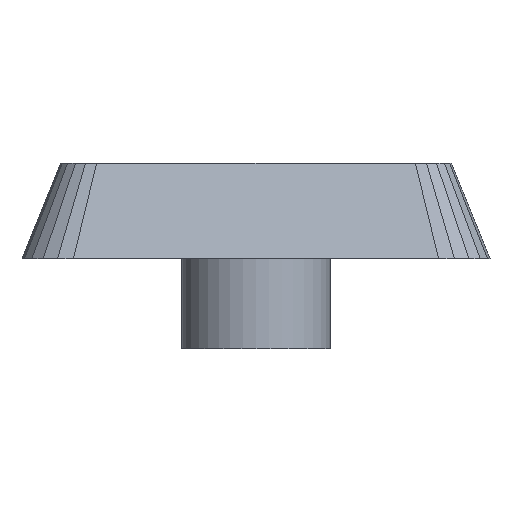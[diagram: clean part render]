
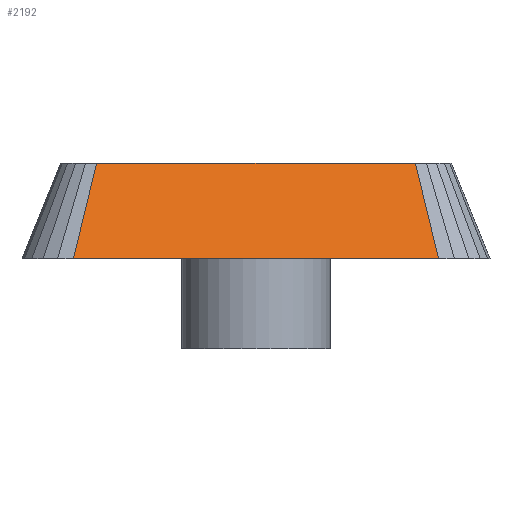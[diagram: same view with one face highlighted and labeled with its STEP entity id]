
A CAD part, front view. The second image highlights one B-rep face of the part: STEP entity #2192.
In plain terms, the highlighted free-form (B-spline) face has degree [1, 1] with [2, 2] control points.
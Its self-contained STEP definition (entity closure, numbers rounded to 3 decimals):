
#44 = PLANE('',#45);
#45 = AXIS2_PLACEMENT_3D('',#46,#47,#48);
#46 = CARTESIAN_POINT('',(9.1,11.1,19.5));
#47 = DIRECTION('',(-0.,0.,-1.));
#48 = DIRECTION('',(-0.757,-0.653,0.));
#98 = PLANE('',#99);
#99 = AXIS2_PLACEMENT_3D('',#100,#101,#102);
#100 = CARTESIAN_POINT('',(7.6,10.2,23.2));
#101 = DIRECTION('',(-0.,0.,-1.));
#102 = DIRECTION('',(-0.749,-0.663,0.));
#275 = VERTEX_POINT('',#276);
#276 = CARTESIAN_POINT('',(7.1,-5.1,19.5));
#290 = B_SPLINE_SURFACE_WITH_KNOTS('',1,1,(
    (#291,#292)
    ,(#293,#294
    )),.UNSPECIFIED.,.F.,.F.,.F.,(2,2),(2,2),(0.,0.626),(0.,1.)
  ,.PIECEWISE_BEZIER_KNOTS.);
#291 = CARTESIAN_POINT('',(7.1,-5.1,19.5));
#292 = CARTESIAN_POINT('',(6.2,-3.6,23.2));
#293 = CARTESIAN_POINT('',(7.718,-5.002,19.5));
#294 = CARTESIAN_POINT('',(6.633,-3.531,23.2));
#302 = EDGE_CURVE('',#303,#275,#305,.T.);
#303 = VERTEX_POINT('',#304);
#304 = CARTESIAN_POINT('',(-7.1,-5.1,19.5));
#305 = SURFACE_CURVE('',#306,(#310,#317),.PCURVE_S1.);
#306 = LINE('',#307,#308);
#307 = CARTESIAN_POINT('',(-7.1,-5.1,19.5));
#308 = VECTOR('',#309,1.);
#309 = DIRECTION('',(1.,0.,0.));
#310 = PCURVE('',#44,#311);
#311 = DEFINITIONAL_REPRESENTATION('',(#312),#316);
#312 = LINE('',#313,#314);
#313 = CARTESIAN_POINT('',(22.848,-1.681));
#314 = VECTOR('',#315,1.);
#315 = DIRECTION('',(-0.757,-0.653));
#316 = ( GEOMETRIC_REPRESENTATION_CONTEXT(2) 
PARAMETRIC_REPRESENTATION_CONTEXT() REPRESENTATION_CONTEXT('2D SPACE',''
  ) );
#317 = PCURVE('',#318,#323);
#318 = B_SPLINE_SURFACE_WITH_KNOTS('',1,1,(
    (#319,#320)
    ,(#321,#322
    )),.UNSPECIFIED.,.F.,.F.,.F.,(2,2),(2,2),(0.,14.2),(0.,1.),
  .PIECEWISE_BEZIER_KNOTS.);
#319 = CARTESIAN_POINT('',(-7.1,-5.1,19.5));
#320 = CARTESIAN_POINT('',(-6.2,-3.6,23.2));
#321 = CARTESIAN_POINT('',(7.1,-5.1,19.5));
#322 = CARTESIAN_POINT('',(6.2,-3.6,23.2));
#323 = DEFINITIONAL_REPRESENTATION('',(#324),#328);
#324 = LINE('',#325,#326);
#325 = CARTESIAN_POINT('',(0.,0.));
#326 = VECTOR('',#327,1.);
#327 = DIRECTION('',(1.,0.));
#328 = ( GEOMETRIC_REPRESENTATION_CONTEXT(2) 
PARAMETRIC_REPRESENTATION_CONTEXT() REPRESENTATION_CONTEXT('2D SPACE',''
  ) );
#346 = B_SPLINE_SURFACE_WITH_KNOTS('',1,1,(
    (#347,#348)
    ,(#349,#350
    )),.UNSPECIFIED.,.F.,.F.,.F.,(2,2),(2,2),(0.,0.626),(0.,1.)
  ,.PIECEWISE_BEZIER_KNOTS.);
#347 = CARTESIAN_POINT('',(-7.718,-5.002,19.5));
#348 = CARTESIAN_POINT('',(-6.633,-3.531,23.2));
#349 = CARTESIAN_POINT('',(-7.1,-5.1,19.5));
#350 = CARTESIAN_POINT('',(-6.2,-3.6,23.2));
#1734 = VERTEX_POINT('',#1735);
#1735 = CARTESIAN_POINT('',(-6.2,-3.6,23.2));
#1755 = EDGE_CURVE('',#1734,#1756,#1758,.T.);
#1756 = VERTEX_POINT('',#1757);
#1757 = CARTESIAN_POINT('',(6.2,-3.6,23.2));
#1758 = SURFACE_CURVE('',#1759,(#1763,#1770),.PCURVE_S1.);
#1759 = LINE('',#1760,#1761);
#1760 = CARTESIAN_POINT('',(-6.2,-3.6,23.2));
#1761 = VECTOR('',#1762,1.);
#1762 = DIRECTION('',(1.,0.,0.));
#1763 = PCURVE('',#98,#1764);
#1764 = DEFINITIONAL_REPRESENTATION('',(#1765),#1769);
#1765 = LINE('',#1766,#1767);
#1766 = CARTESIAN_POINT('',(19.48,-1.183));
#1767 = VECTOR('',#1768,1.);
#1768 = DIRECTION('',(-0.749,-0.663));
#1769 = ( GEOMETRIC_REPRESENTATION_CONTEXT(2) 
PARAMETRIC_REPRESENTATION_CONTEXT() REPRESENTATION_CONTEXT('2D SPACE',''
  ) );
#1770 = PCURVE('',#318,#1771);
#1771 = DEFINITIONAL_REPRESENTATION('',(#1772),#1775);
#1772 = B_SPLINE_CURVE_WITH_KNOTS('',1,(#1773,#1774),.UNSPECIFIED.,.F.,
  .F.,(2,2),(0.,12.4),.PIECEWISE_BEZIER_KNOTS.);
#1773 = CARTESIAN_POINT('',(0.,1.));
#1774 = CARTESIAN_POINT('',(14.2,1.));
#1775 = ( GEOMETRIC_REPRESENTATION_CONTEXT(2) 
PARAMETRIC_REPRESENTATION_CONTEXT() REPRESENTATION_CONTEXT('2D SPACE',''
  ) );
#2147 = EDGE_CURVE('',#275,#1756,#2148,.T.);
#2148 = SURFACE_CURVE('',#2149,(#2152,#2159),.PCURVE_S1.);
#2149 = B_SPLINE_CURVE_WITH_KNOTS('',1,(#2150,#2151),.UNSPECIFIED.,.F.,
  .F.,(2,2),(0.,1.),.PIECEWISE_BEZIER_KNOTS.);
#2150 = CARTESIAN_POINT('',(7.1,-5.1,19.5));
#2151 = CARTESIAN_POINT('',(6.2,-3.6,23.2));
#2152 = PCURVE('',#290,#2153);
#2153 = DEFINITIONAL_REPRESENTATION('',(#2154),#2158);
#2154 = LINE('',#2155,#2156);
#2155 = CARTESIAN_POINT('',(0.,0.));
#2156 = VECTOR('',#2157,1.);
#2157 = DIRECTION('',(0.,1.));
#2158 = ( GEOMETRIC_REPRESENTATION_CONTEXT(2) 
PARAMETRIC_REPRESENTATION_CONTEXT() REPRESENTATION_CONTEXT('2D SPACE',''
  ) );
#2159 = PCURVE('',#318,#2160);
#2160 = DEFINITIONAL_REPRESENTATION('',(#2161),#2165);
#2161 = LINE('',#2162,#2163);
#2162 = CARTESIAN_POINT('',(14.2,0.));
#2163 = VECTOR('',#2164,1.);
#2164 = DIRECTION('',(0.,1.));
#2165 = ( GEOMETRIC_REPRESENTATION_CONTEXT(2) 
PARAMETRIC_REPRESENTATION_CONTEXT() REPRESENTATION_CONTEXT('2D SPACE',''
  ) );
#2192 = ADVANCED_FACE('',(#2193),#318,.T.);
#2193 = FACE_BOUND('',#2194,.T.);
#2194 = EDGE_LOOP('',(#2195,#2196,#2197,#2198));
#2195 = ORIENTED_EDGE('',*,*,#302,.T.);
#2196 = ORIENTED_EDGE('',*,*,#2147,.T.);
#2197 = ORIENTED_EDGE('',*,*,#1755,.F.);
#2198 = ORIENTED_EDGE('',*,*,#2199,.F.);
#2199 = EDGE_CURVE('',#303,#1734,#2200,.T.);
#2200 = SURFACE_CURVE('',#2201,(#2204,#2211),.PCURVE_S1.);
#2201 = B_SPLINE_CURVE_WITH_KNOTS('',1,(#2202,#2203),.UNSPECIFIED.,.F.,
  .F.,(2,2),(0.,1.),.PIECEWISE_BEZIER_KNOTS.);
#2202 = CARTESIAN_POINT('',(-7.1,-5.1,19.5));
#2203 = CARTESIAN_POINT('',(-6.2,-3.6,23.2));
#2204 = PCURVE('',#318,#2205);
#2205 = DEFINITIONAL_REPRESENTATION('',(#2206),#2210);
#2206 = LINE('',#2207,#2208);
#2207 = CARTESIAN_POINT('',(0.,0.));
#2208 = VECTOR('',#2209,1.);
#2209 = DIRECTION('',(0.,1.));
#2210 = ( GEOMETRIC_REPRESENTATION_CONTEXT(2) 
PARAMETRIC_REPRESENTATION_CONTEXT() REPRESENTATION_CONTEXT('2D SPACE',''
  ) );
#2211 = PCURVE('',#346,#2212);
#2212 = DEFINITIONAL_REPRESENTATION('',(#2213),#2217);
#2213 = LINE('',#2214,#2215);
#2214 = CARTESIAN_POINT('',(0.626,0.));
#2215 = VECTOR('',#2216,1.);
#2216 = DIRECTION('',(0.,1.));
#2217 = ( GEOMETRIC_REPRESENTATION_CONTEXT(2) 
PARAMETRIC_REPRESENTATION_CONTEXT() REPRESENTATION_CONTEXT('2D SPACE',''
  ) );
